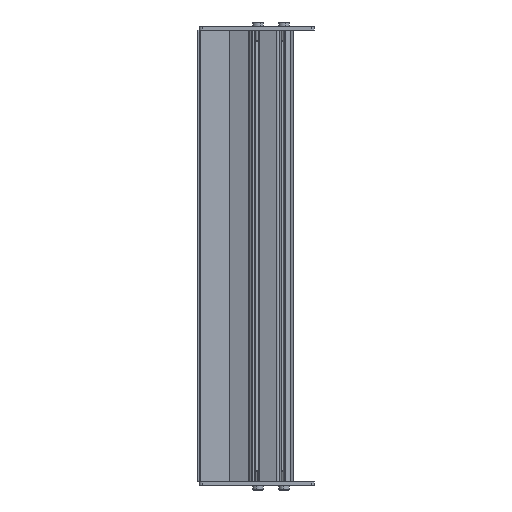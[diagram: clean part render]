
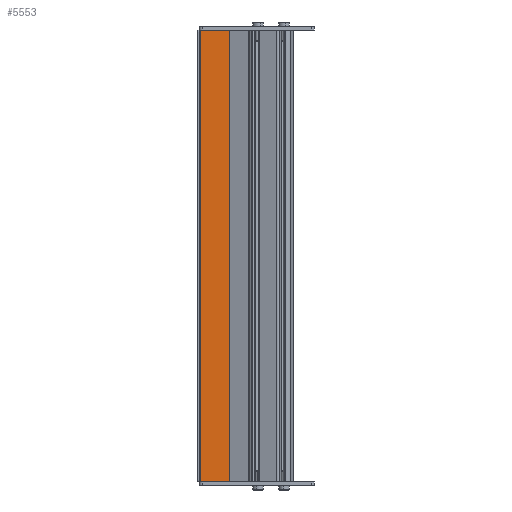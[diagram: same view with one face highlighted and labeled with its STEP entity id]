
A CAD part, left-side view. The second image highlights one B-rep face of the part: STEP entity #5553.
In plain terms, the highlighted planar face has unit normal (-1, 0, 0) as drawn and (1, 0, 0) by its records, which use the part's own axes.
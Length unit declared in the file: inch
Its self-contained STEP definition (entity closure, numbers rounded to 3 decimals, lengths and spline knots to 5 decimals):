
#4818=DIRECTION('',(0.,-1.,0.));
#4819=VECTOR('',#4818,0.88707);
#4820=CARTESIAN_POINT('',(0.048,0.904,-7.118));
#4821=LINE('',#4820,#4819);
#4848=DIRECTION('',(0.,0.,-1.));
#4849=VECTOR('',#4848,14.236);
#4850=CARTESIAN_POINT('',(0.048,0.904,7.118));
#4851=LINE('',#4850,#4849);
#4856=DIRECTION('',(0.,-1.,0.));
#4857=VECTOR('',#4856,0.88707);
#4858=CARTESIAN_POINT('',(0.048,0.904,7.118));
#4859=LINE('',#4858,#4857);
#4864=DIRECTION('',(0.,0.,1.));
#4865=VECTOR('',#4864,14.236);
#4866=CARTESIAN_POINT('',(0.048,0.01693,-7.118));
#4867=LINE('',#4866,#4865);
#5224=CARTESIAN_POINT('',(0.048,0.904,7.118));
#5226=VERTEX_POINT('',#5224);
#5233=CARTESIAN_POINT('',(0.048,0.01693,7.118));
#5235=VERTEX_POINT('',#5233);
#5284=CARTESIAN_POINT('',(0.048,0.01693,-7.118));
#5285=VERTEX_POINT('',#5284);
#5296=CARTESIAN_POINT('',(0.048,0.904,-7.118));
#5297=VERTEX_POINT('',#5296);
#5541=CARTESIAN_POINT('',(0.048,0.,7.118));
#5542=DIRECTION('',(-1.,0.,0.));
#5543=DIRECTION('',(0.,0.,1.));
#5544=AXIS2_PLACEMENT_3D('',#5541,#5542,#5543);
#5545=PLANE('',#5544);
#5546=ORIENTED_EDGE('',*,*,#5480,.T.);
#5548=ORIENTED_EDGE('',*,*,#5547,.T.);
#5549=ORIENTED_EDGE('',*,*,#5508,.F.);
#5550=ORIENTED_EDGE('',*,*,#5534,.T.);
#5551=EDGE_LOOP('',(#5546,#5548,#5549,#5550));
#5552=FACE_OUTER_BOUND('',#5551,.F.);
#5480=EDGE_CURVE('',#5297,#5285,#4821,.T.);
#5508=EDGE_CURVE('',#5226,#5235,#4859,.T.);
#5534=EDGE_CURVE('',#5226,#5297,#4851,.T.);
#5547=EDGE_CURVE('',#5285,#5235,#4867,.T.);
#5553=ADVANCED_FACE('',(#5552),#5545,.F.);
